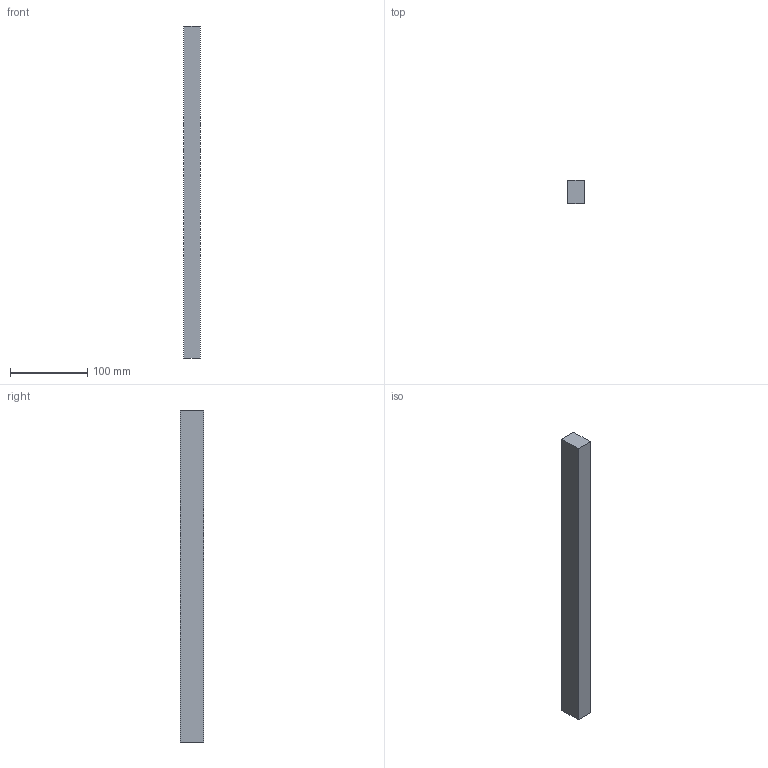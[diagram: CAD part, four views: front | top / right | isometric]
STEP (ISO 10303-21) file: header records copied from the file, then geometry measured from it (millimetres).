
FILE_DESCRIPTION(('Open CASCADE Model'),'2;1');
FILE_NAME('Open CASCADE Shape Model','2026-09-19T23:46:40',('Author'),( 'Open CASCADE'),'Open CASCADE STEP processor 7.9','Open CASCADE 7.9' ,'Unknown');
FILE_SCHEMA(('AUTOMOTIVE_DESIGN { 1 0 10303 214 1 1 1 1 }'));
Length unit declared in the file: millimetre
Products named in the file (1): Open CASCADE STEP translator 7.9 52
Bounding box: 22 x 30 x 430 mm (x, y, z)
Volume: 283800 mm3; surface area: 46040 mm2
Topology: 1 solids, 1 shells, 6 faces, 12 edges, 8 vertices
Faces by surface type: plane 6
Entity records: 322 total; most frequent: CARTESIAN_POINT 51, DIRECTION 50, LINE 36, VECTOR 36, ORIENTED_EDGE 24, PCURVE 24, DEFINITIONAL_REPRESENTATION 24, EDGE_CURVE 12
